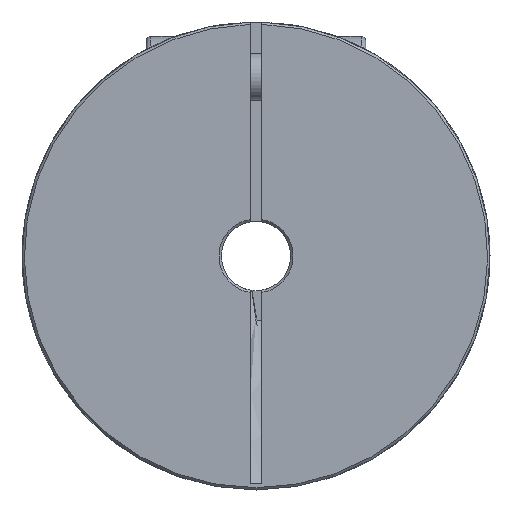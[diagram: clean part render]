
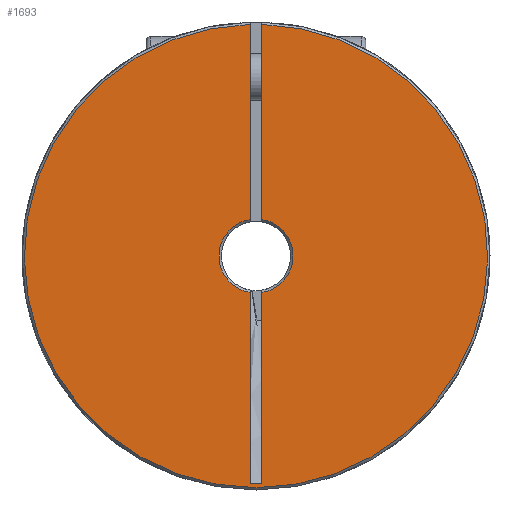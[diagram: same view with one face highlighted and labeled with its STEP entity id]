
A CAD part, left-side view. The second image highlights one B-rep face of the part: STEP entity #1693.
In plain terms, the highlighted planar face has unit normal (-1, 0, 0).
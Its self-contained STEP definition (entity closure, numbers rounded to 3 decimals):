
#116=LINE('',#2722,#198);
#119=LINE('',#2733,#201);
#122=LINE('',#2760,#204);
#127=LINE('',#2782,#209);
#128=LINE('',#2790,#210);
#198=VECTOR('',#2105,1000.);
#201=VECTOR('',#2110,1000.);
#204=VECTOR('',#2119,1000.);
#209=VECTOR('',#2128,1000.);
#210=VECTOR('',#2131,1000.);
#359=ORIENTED_EDGE('',*,*,#773,.T.);
#360=ORIENTED_EDGE('',*,*,#728,.F.);
#361=ORIENTED_EDGE('',*,*,#736,.F.);
#362=ORIENTED_EDGE('',*,*,#746,.T.);
#363=ORIENTED_EDGE('',*,*,#774,.T.);
#364=ORIENTED_EDGE('',*,*,#744,.T.);
#365=ORIENTED_EDGE('',*,*,#775,.F.);
#366=ORIENTED_EDGE('',*,*,#724,.F.);
#724=EDGE_CURVE('',#935,#936,#116,.T.);
#728=EDGE_CURVE('',#939,#940,#119,.T.);
#736=EDGE_CURVE('',#947,#939,#122,.T.);
#744=EDGE_CURVE('',#950,#954,#127,.T.);
#746=EDGE_CURVE('',#947,#955,#128,.T.);
#773=EDGE_CURVE('',#935,#940,#1093,.T.);
#774=EDGE_CURVE('',#955,#950,#1094,.T.);
#775=EDGE_CURVE('',#936,#954,#1095,.T.);
#935=VERTEX_POINT('',#2721);
#936=VERTEX_POINT('',#2723);
#939=VERTEX_POINT('',#2734);
#940=VERTEX_POINT('',#2735);
#947=VERTEX_POINT('',#2759);
#950=VERTEX_POINT('',#2770);
#954=VERTEX_POINT('',#2781);
#955=VERTEX_POINT('',#2788);
#1093=CIRCLE('',#1858,3.2);
#1094=CIRCLE('',#1859,3.2);
#1095=CIRCLE('',#1860,20.05);
#1212=EDGE_LOOP('',(#359,#360,#361,#362,#363,#364,#365,#366));
#1422=FACE_BOUND('',#1212,.T.);
#1613=PLANE('',#1857);
#1693=ADVANCED_FACE('',(#1422),#1613,.F.);
#1857=AXIS2_PLACEMENT_3D('',#2925,#2179,#2180);
#1858=AXIS2_PLACEMENT_3D('',#2926,#2181,#2182);
#1859=AXIS2_PLACEMENT_3D('',#2927,#2183,#2184);
#1860=AXIS2_PLACEMENT_3D('',#2928,#2185,#2186);
#2105=DIRECTION('',(0.,0.,1.));
#2110=DIRECTION('',(0.,0.,1.));
#2119=DIRECTION('',(0.,-1.,0.));
#2128=DIRECTION('',(0.,0.,1.));
#2131=DIRECTION('',(0.,0.,1.));
#2179=DIRECTION('',(1.,0.,0.));
#2180=DIRECTION('',(0.,0.,-1.));
#2181=DIRECTION('',(1.,0.,0.));
#2182=DIRECTION('',(0.,0.,-1.));
#2183=DIRECTION('',(1.,0.,0.));
#2184=DIRECTION('',(0.,0.,-1.));
#2185=DIRECTION('',(1.,0.,0.));
#2186=DIRECTION('',(0.,0.,-1.));
#2721=CARTESIAN_POINT('',(0.,-0.5,3.161));
#2722=CARTESIAN_POINT('',(0.,-0.5,-19.712));
#2723=CARTESIAN_POINT('',(0.,-0.5,20.044));
#2733=CARTESIAN_POINT('',(0.,-0.5,-19.712));
#2734=CARTESIAN_POINT('',(0.,-0.5,-19.712));
#2735=CARTESIAN_POINT('',(0.,-0.5,-3.161));
#2759=CARTESIAN_POINT('',(0.,0.5,-19.712));
#2760=CARTESIAN_POINT('',(0.,0.5,-19.712));
#2770=CARTESIAN_POINT('',(0.,0.5,3.161));
#2781=CARTESIAN_POINT('',(0.,0.5,20.044));
#2782=CARTESIAN_POINT('',(0.,0.5,-19.712));
#2788=CARTESIAN_POINT('',(0.,0.5,-3.161));
#2790=CARTESIAN_POINT('',(0.,0.5,-19.712));
#2925=CARTESIAN_POINT('',(0.,0.,0.));
#2926=CARTESIAN_POINT('',(0.,0.,0.));
#2927=CARTESIAN_POINT('',(0.,0.,0.));
#2928=CARTESIAN_POINT('',(0.,0.,0.));
